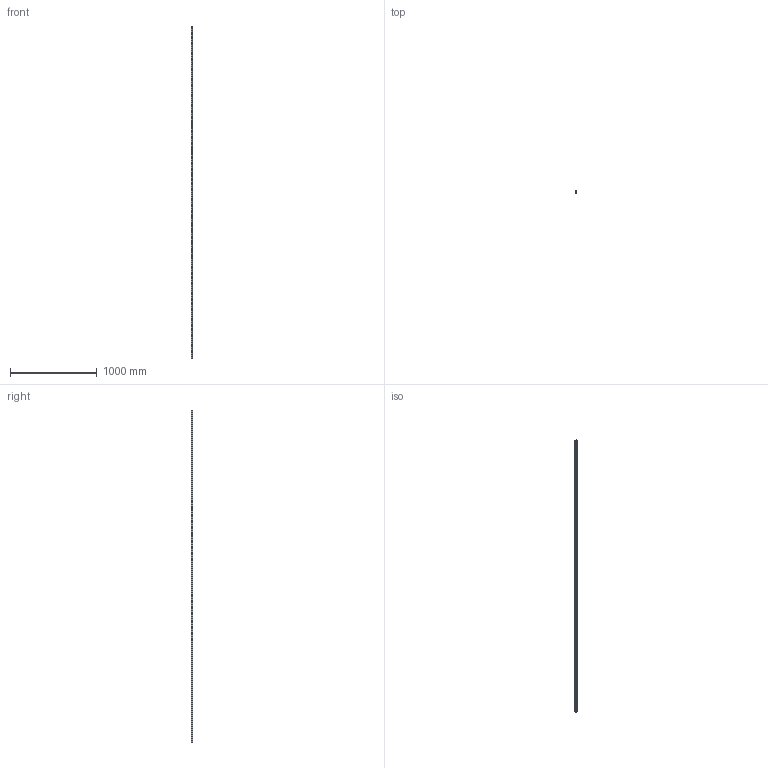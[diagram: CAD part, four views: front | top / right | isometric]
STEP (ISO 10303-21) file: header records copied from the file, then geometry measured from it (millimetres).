
FILE_DESCRIPTION (( 'STEP AP203' ), '1' );
FILE_NAME ('L1016.BRF25-3820.step', '2019-06-13T08:48:36', ( '' ), ( '' ), 'SwSTEP 2.0', 'SolidWorks 2017', '' );
FILE_SCHEMA (( 'CONFIG_CONTROL_DESIGN' ));
Length unit declared in the file: millimetre
Products named in the file (1): L1016.BRF25-3820
Bounding box: 23 x 19.2 x 3820 mm (x, y, z)
Volume: 1458531.6 mm3; surface area: 351277.6 mm2
Topology: 1 solids, 1 shells, 474 faces, 1096 edges, 624 vertices
Faces by surface type: cylinder 260, cone 128, plane 86
Entity records: 12677 total; most frequent: DIRECTION 2438, CARTESIAN_POINT 2067, ORIENTED_EDGE 1936, AXIS2_PLACEMENT_3D 995, EDGE_CURVE 968, VERTEX_POINT 624, EDGE_LOOP 602, CIRCLE 520
